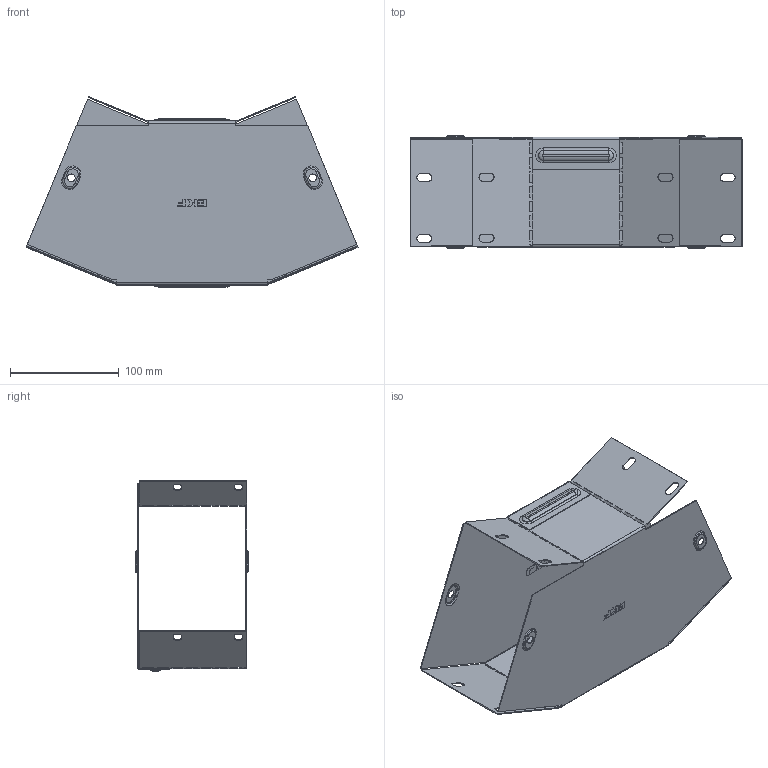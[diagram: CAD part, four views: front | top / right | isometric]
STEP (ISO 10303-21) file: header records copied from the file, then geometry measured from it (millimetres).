
FILE_DESCRIPTION (( 'STEP AP214' ), '1' );
FILE_NAME ('g45100150_捘.STEP', '2019-06-10T08:48:38', ( '砐錪賧瘔蠈錪 Windows' ), ( '' ), 'SwSTEP 2.0', 'SolidWorks 2018', '' );
FILE_SCHEMA (( 'AUTOMOTIVE_DESIGN' ));
Length unit declared in the file: millimetre
Products named in the file (1): g45100150_捘
Bounding box: 305.14 x 103.8 x 175.42 mm (x, y, z)
Volume: 104425.6 mm3; surface area: 264128.1 mm2
Topology: 2 solids, 2 shells, 608 faces, 1708 edges, 1076 vertices
Faces by surface type: plane 346, cylinder 180, torus 64, bspline 18
Entity records: 20480 total; most frequent: CARTESIAN_POINT 4412, ORIENTED_EDGE 3416, DIRECTION 3310, EDGE_CURVE 1708, VECTOR 1216, LINE 1216, VERTEX_POINT 1076, AXIS2_PLACEMENT_3D 1047
